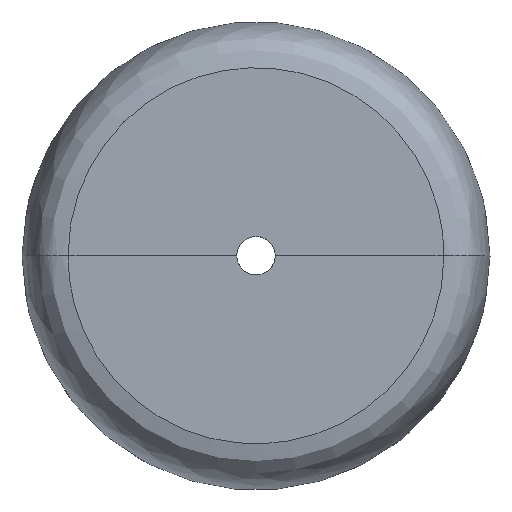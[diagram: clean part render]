
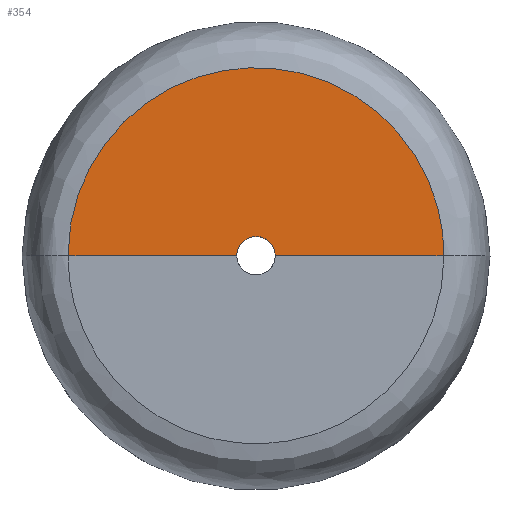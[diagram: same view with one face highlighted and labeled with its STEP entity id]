
A CAD part, top view. The second image highlights one B-rep face of the part: STEP entity #354.
In plain terms, the highlighted free-form (B-spline) face has degree [3, 2] with [4, 9] control points.
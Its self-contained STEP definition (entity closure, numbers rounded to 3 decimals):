
#17 =( BOUNDED_CURVE ( )  B_SPLINE_CURVE ( 2, ( #257, #790, #110, #44, #342 ),
 .UNSPECIFIED., .F., .T. ) 
 B_SPLINE_CURVE_WITH_KNOTS ( ( 3, 2, 3 ),
 ( 0., 0.5, 1. ),
 .UNSPECIFIED. ) 
 CURVE ( )  GEOMETRIC_REPRESENTATION_ITEM ( )  RATIONAL_B_SPLINE_CURVE ( ( 1., 0.707, 1., 0.707, 1. ) ) 
 REPRESENTATION_ITEM ( '' )  );
#21 = EDGE_CURVE ( 'NONE', #61, #943, #49, .T. ) ;
#39 = CARTESIAN_POINT ( 'NONE',  ( -36.492, -68.508, 538. ) ) ;
#42 = CARTESIAN_POINT ( 'NONE',  ( -95., 0., 538. ) ) ;
#44 = CARTESIAN_POINT ( 'NONE',  ( -95., 10., 538. ) ) ;
#46 = CARTESIAN_POINT ( 'NONE',  ( -7.237, -97.763, 538. ) ) ;
#49 = B_SPLINE_CURVE_WITH_KNOTS ( 'NONE', 3,
 ( #388, #392, #678, #377 ),
 .UNSPECIFIED., .F., .F.,
 ( 4, 4 ),
 ( -183.789, -12.405 ),
 .UNSPECIFIED. ) ;
#61 = VERTEX_POINT ( 'NONE', #830 ) ;
#74 = CARTESIAN_POINT ( 'NONE',  ( -105., -10., 538. ) ) ;
#108 = CARTESIAN_POINT ( 'NONE',  ( -65.746, 0., 538. ) ) ;
#110 = CARTESIAN_POINT ( 'NONE',  ( -105., 10., 538. ) ) ;
#112 = FACE_OUTER_BOUND ( 'NONE', #816, .T. ) ;
#116 = CARTESIAN_POINT ( 'NONE',  ( -105., 10., 538. ) ) ;
#121 = CARTESIAN_POINT ( 'NONE',  ( -105., 68.508, 538. ) ) ;
#124 = CARTESIAN_POINT ( 'NONE',  ( -95., 0., 538. ) ) ;
#130 = ORIENTED_EDGE ( 'NONE', *, *, #21, .T. ) ;
#144 = ORIENTED_EDGE ( 'NONE', *, *, #298, .F. ) ;
#151 = EDGE_CURVE ( 'NONE', #61, #437, #261, .T. ) ;
#190 = CARTESIAN_POINT ( 'NONE',  ( -202.763, 0., 538. ) ) ;
#194 = CARTESIAN_POINT ( 'NONE',  ( -144.254, 0., 538. ) ) ;
#199 = CARTESIAN_POINT ( 'NONE',  ( -7.237, 97.763, 538. ) ) ;
#257 = CARTESIAN_POINT ( 'NONE',  ( -115., 0., 538. ) ) ;
#260 = CARTESIAN_POINT ( 'NONE',  ( -7.237, 0., 538. ) ) ;
#261 =( BOUNDED_CURVE ( )  B_SPLINE_CURVE ( 2, ( #300, #603, #843, #756, #313 ),
 .UNSPECIFIED., .F., .T. ) 
 B_SPLINE_CURVE_WITH_KNOTS ( ( 3, 2, 3 ),
 ( 0., 191.105, 382.21 ),
 .UNSPECIFIED. ) 
 CURVE ( )  GEOMETRIC_REPRESENTATION_ITEM ( )  RATIONAL_B_SPLINE_CURVE ( ( 1., 0.707, 1., 0.707, 1. ) ) 
 REPRESENTATION_ITEM ( '' )  );
#266 = CARTESIAN_POINT ( 'NONE',  ( -144.254, 39.254, 538. ) ) ;
#271 = CARTESIAN_POINT ( 'NONE',  ( -173.508, 68.508, 538. ) ) ;
#295 = ORIENTED_EDGE ( 'NONE', *, *, #565, .T. ) ;
#298 = EDGE_CURVE ( 'NONE', #437, #812, #586, .T. ) ;
#300 = CARTESIAN_POINT ( 'NONE',  ( -202.763, 0., 538. ) ) ;
#313 = CARTESIAN_POINT ( 'NONE',  ( -7.237, 0., 538. ) ) ;
#339 = CARTESIAN_POINT ( 'NONE',  ( -105., -68.508, 538. ) ) ;
#342 = CARTESIAN_POINT ( 'NONE',  ( -95., 0., 538. ) ) ;
#344 = CARTESIAN_POINT ( 'NONE',  ( -95., 0., 538. ) ) ;
#348 = CARTESIAN_POINT ( 'NONE',  ( -115., 10., 538. ) ) ;
#354 = ADVANCED_FACE ( 'NONE', ( #112 ), #676, .T. ) ;
#377 = CARTESIAN_POINT ( 'NONE',  ( -115., 0., 538. ) ) ;
#388 = CARTESIAN_POINT ( 'NONE',  ( -202.763, 0., 538. ) ) ;
#392 = CARTESIAN_POINT ( 'NONE',  ( -173.508, 0., 538. ) ) ;
#410 = CARTESIAN_POINT ( 'NONE',  ( -202.763, 97.763, 538. ) ) ;
#415 = CARTESIAN_POINT ( 'NONE',  ( -173.508, 0., 538. ) ) ;
#420 = CARTESIAN_POINT ( 'NONE',  ( -95., 10., 538. ) ) ;
#437 = VERTEX_POINT ( 'NONE', #773 ) ;
#488 = CARTESIAN_POINT ( 'NONE',  ( -202.763, 0., 538. ) ) ;
#493 = CARTESIAN_POINT ( 'NONE',  ( -115., 0., 538. ) ) ;
#499 = CARTESIAN_POINT ( 'NONE',  ( -65.746, -39.254, 538. ) ) ;
#565 = EDGE_CURVE ( 'NONE', #943, #812, #17, .T. ) ;
#566 = CARTESIAN_POINT ( 'NONE',  ( -202.763, -97.763, 538. ) ) ;
#571 = CARTESIAN_POINT ( 'NONE',  ( -105., 39.254, 538. ) ) ;
#575 = CARTESIAN_POINT ( 'NONE',  ( -105., 97.763, 538. ) ) ;
#586 = B_SPLINE_CURVE_WITH_KNOTS ( 'NONE', 3,
 ( #656, #936, #108, #42 ),
 .UNSPECIFIED., .F., .F.,
 ( 4, 4 ),
 ( -183.789, -12.405 ),
 .UNSPECIFIED. ) ;
#603 = CARTESIAN_POINT ( 'NONE',  ( -202.763, 97.763, 538. ) ) ;
#624 = CARTESIAN_POINT ( 'NONE',  ( -115., 0., 538. ) ) ;
#648 = CARTESIAN_POINT ( 'NONE',  ( -144.254, 0., 538. ) ) ;
#656 = CARTESIAN_POINT ( 'NONE',  ( -7.237, 0., 538. ) ) ;
#675 = CARTESIAN_POINT ( 'NONE',  ( -115., 0., 538. ) ) ;
#676 =( BOUNDED_SURFACE ( )  B_SPLINE_SURFACE ( 3, 2, ( 
 ( #190, #410, #575, #199, #260, #46, #722, #566, #488 ),
 ( #415, #271, #121, #803, #717, #39, #339, #931, #872 ),
 ( #648, #266, #571, #792, #868, #499, #798, #726, #194 ),
 ( #493, #348, #116, #420, #344, #897, #74, #891, #675 ) ),
 .UNSPECIFIED., .F., .T., .F. ) 
 B_SPLINE_SURFACE_WITH_KNOTS ( ( 4, 4 ),
 ( 3, 2, 2, 2, 3 ),
 ( -183.789, -12.405 ),
 ( 0., 191.105, 382.21, 573.315, 764.42 ),
 .UNSPECIFIED. ) 
 GEOMETRIC_REPRESENTATION_ITEM ( )  RATIONAL_B_SPLINE_SURFACE ( (
 ( 1., 0.707, 1., 0.707, 1., 0.707, 1., 0.707, 1.),
 ( 1., 0.707, 1., 0.707, 1., 0.707, 1., 0.707, 1.),
 ( 1., 0.707, 1., 0.707, 1., 0.707, 1., 0.707, 1.),
 ( 1., 0.707, 1., 0.707, 1., 0.707, 1., 0.707, 1.) ) ) 
 REPRESENTATION_ITEM ( '' )  SURFACE ( )  );
#678 = CARTESIAN_POINT ( 'NONE',  ( -144.254, 0., 538. ) ) ;
#717 = CARTESIAN_POINT ( 'NONE',  ( -36.492, 0., 538. ) ) ;
#722 = CARTESIAN_POINT ( 'NONE',  ( -105., -97.763, 538. ) ) ;
#726 = CARTESIAN_POINT ( 'NONE',  ( -144.254, -39.254, 538. ) ) ;
#756 = CARTESIAN_POINT ( 'NONE',  ( -7.237, 97.763, 538. ) ) ;
#773 = CARTESIAN_POINT ( 'NONE',  ( -7.237, 0., 538. ) ) ;
#790 = CARTESIAN_POINT ( 'NONE',  ( -115., 10., 538. ) ) ;
#792 = CARTESIAN_POINT ( 'NONE',  ( -65.746, 39.254, 538. ) ) ;
#798 = CARTESIAN_POINT ( 'NONE',  ( -105., -39.254, 538. ) ) ;
#803 = CARTESIAN_POINT ( 'NONE',  ( -36.492, 68.508, 538. ) ) ;
#812 = VERTEX_POINT ( 'NONE', #124 ) ;
#816 = EDGE_LOOP ( 'NONE', ( #144, #835, #130, #295 ) ) ;
#830 = CARTESIAN_POINT ( 'NONE',  ( -202.763, 0., 538. ) ) ;
#835 = ORIENTED_EDGE ( 'NONE', *, *, #151, .F. ) ;
#843 = CARTESIAN_POINT ( 'NONE',  ( -105., 97.763, 538. ) ) ;
#868 = CARTESIAN_POINT ( 'NONE',  ( -65.746, 0., 538. ) ) ;
#872 = CARTESIAN_POINT ( 'NONE',  ( -173.508, 0., 538. ) ) ;
#891 = CARTESIAN_POINT ( 'NONE',  ( -115., -10., 538. ) ) ;
#897 = CARTESIAN_POINT ( 'NONE',  ( -95., -10., 538. ) ) ;
#931 = CARTESIAN_POINT ( 'NONE',  ( -173.508, -68.508, 538. ) ) ;
#936 = CARTESIAN_POINT ( 'NONE',  ( -36.492, 0., 538. ) ) ;
#943 = VERTEX_POINT ( 'NONE', #624 ) ;
